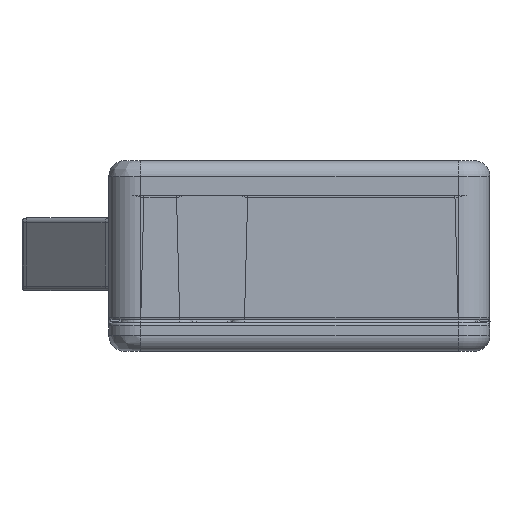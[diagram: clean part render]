
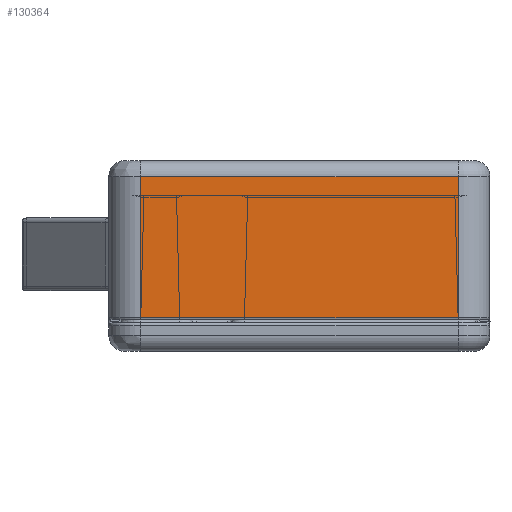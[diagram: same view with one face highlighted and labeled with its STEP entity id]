
A CAD part, left-side view. The second image highlights one B-rep face of the part: STEP entity #130364.
In plain terms, the highlighted planar face has unit normal (-1, 0, 0).
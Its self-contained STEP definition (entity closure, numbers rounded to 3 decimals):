
#10061=DIRECTION('',(0.,1.,0.));
#10062=VECTOR('',#10061,20.);
#10063=CARTESIAN_POINT('',(-135.,2.,-8.));
#10064=LINE('',#10063,#10062);
#10068=DIRECTION('',(0.,0.,-1.));
#10069=VECTOR('',#10068,8.9);
#10070=CARTESIAN_POINT('',(-135.,22.,0.9));
#10071=LINE('',#10070,#10069);
#10075=DIRECTION('',(0.,-1.,0.));
#10076=VECTOR('',#10075,20.);
#10077=CARTESIAN_POINT('',(-135.,22.,0.9));
#10078=LINE('',#10077,#10076);
#10082=DIRECTION('',(0.,0.,-1.));
#10083=VECTOR('',#10082,8.9);
#10084=CARTESIAN_POINT('',(-135.,2.,0.9));
#10085=LINE('',#10084,#10083);
#108106=CARTESIAN_POINT('',(-135.,22.,0.9));
#108107=VERTEX_POINT('',#108106);
#108110=CARTESIAN_POINT('',(-135.,2.,0.9));
#108111=VERTEX_POINT('',#108110);
#108212=CARTESIAN_POINT('',(-135.,22.,-8.));
#108214=VERTEX_POINT('',#108212);
#108218=CARTESIAN_POINT('',(-135.,2.,-8.));
#108219=VERTEX_POINT('',#108218);
#130352=CARTESIAN_POINT('',(-135.,24.,-8.1));
#130353=DIRECTION('',(1.,0.,0.));
#130354=DIRECTION('',(0.,-1.,0.));
#130355=AXIS2_PLACEMENT_3D('',#130352,#130353,#130354);
#130356=PLANE('',#130355);
#130357=ORIENTED_EDGE('',*,*,#125230,.T.);
#130359=ORIENTED_EDGE('',*,*,#130358,.F.);
#130360=ORIENTED_EDGE('',*,*,#130259,.T.);
#130361=ORIENTED_EDGE('',*,*,#130333,.T.);
#130362=EDGE_LOOP('',(#130357,#130359,#130360,#130361));
#130363=FACE_OUTER_BOUND('',#130362,.F.);
#125230=EDGE_CURVE('',#108219,#108214,#10064,.T.);
#130259=EDGE_CURVE('',#108107,#108111,#10078,.T.);
#130333=EDGE_CURVE('',#108111,#108219,#10085,.T.);
#130358=EDGE_CURVE('',#108107,#108214,#10071,.T.);
#130364=ADVANCED_FACE('',(#130363),#130356,.F.);
